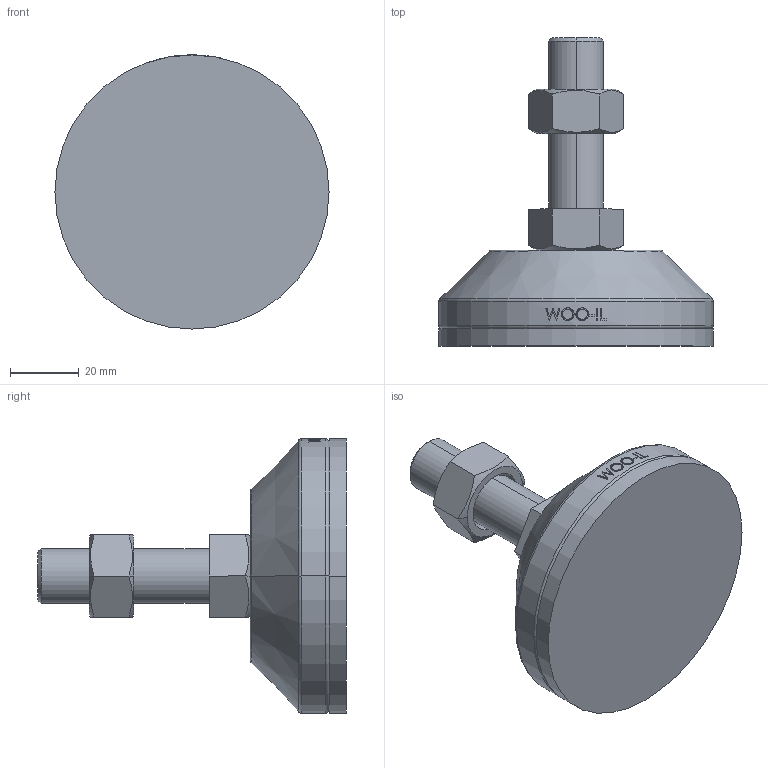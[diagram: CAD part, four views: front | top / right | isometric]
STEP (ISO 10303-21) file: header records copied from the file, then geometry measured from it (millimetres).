
FILE_DESCRIPTION (( 'STEP AP214' ), '1' );
FILE_NAME ('NHNR80-M16-50.step', '2021-01-25T06:22:05', ( '' ), ( '' ), 'SwSTEP 2.0', 'SolidWorks 2019', '' );
FILE_SCHEMA (( 'AUTOMOTIVE_DESIGN' ));
Length unit declared in the file: millimetre
Products named in the file (2): NHNR80-M16-50
Bounding box: 80 x 90 x 80 mm (x, y, z)
Volume: 135796.1 mm3; surface area: 31491 mm2
Topology: 4 solids, 4 shells, 105 faces, 239 edges, 152 vertices
Faces by surface type: plane 49, cylinder 18, bspline 16, cone 14, torus 8
Entity records: 4363 total; most frequent: CARTESIAN_POINT 2046, ORIENTED_EDGE 478, DIRECTION 429, EDGE_CURVE 239, AXIS2_PLACEMENT_3D 165, VERTEX_POINT 152, EDGE_LOOP 117, ADVANCED_FACE 105
